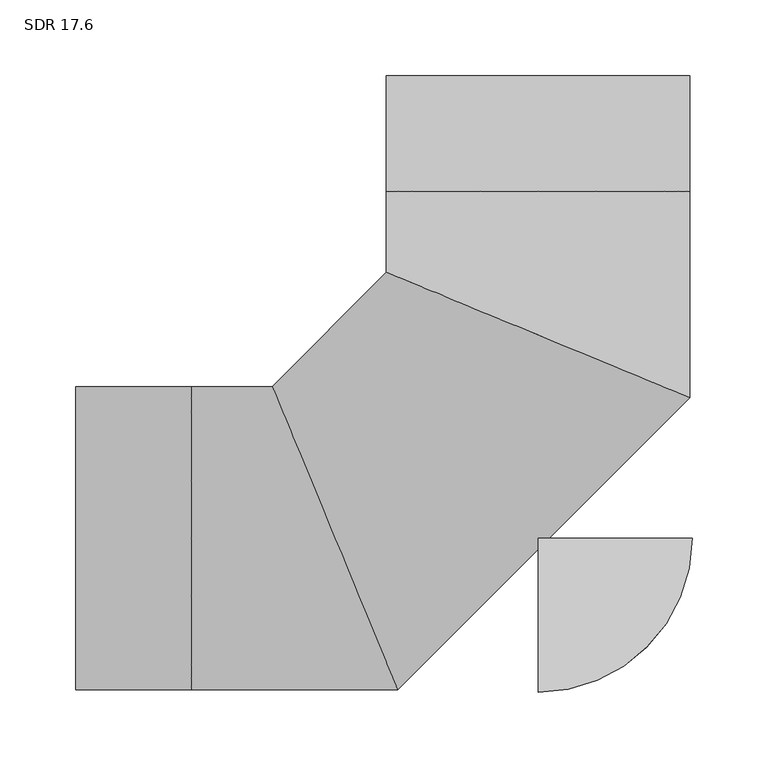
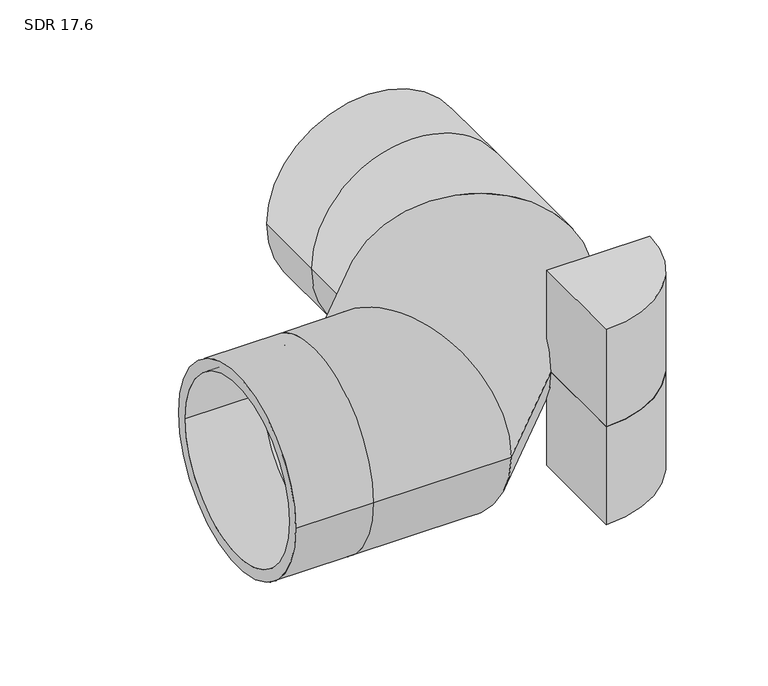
"""IFC4 building model written with IfcOpenShell, lengths in millimetres: pipe fitting geometry, Aquatherm - Elbow Blue BW Segmented : SDR 17.6."""

from ifc_helpers import new_model, si_unit, point, frame, origin, origin_with_axes, origin_2d, place, context, project, spatial, polyline, circle_curve, ellipse_curve, trimmed, segment, composite_curve, outline, extrude, source, transform, mapped, element, save
from ifc_brep_helpers import plane_surface, cylinder_surface, revolved_surface, advanced_brep


def sdr_17_6_2db0e2b8(model_context):
    return source(origin(), model_context, "Body", "SolidModel", [
        extrude(outline(composite_curve([segment(polyline([(0.0, -101.6), (0.0, 0.0), (101.6, 0.0)]), True, "CONTINUOUS"), segment(trimmed(circle_curve(origin_2d(), 101.6), [point((101.6, 0.0))], [point((0.0, -101.6))], False, "CARTESIAN"), True, "CONTINUOUS")], self_intersect=False)), frame((0.0, 0.0, -101.6), z_axis=(0.0, 0.0, 1.0), x_axis=(1.0, 0.0, 0.0)), (0.0, 0.0, 1.0), 101.6),
        extrude(outline(composite_curve([segment(trimmed(circle_curve(origin_2d(), 101.6), [point((101.6, 0.0))], [point((0.0, -101.6))], False, "CARTESIAN"), True, "CONTINUOUS"), segment(polyline([(0.0, -101.6), (0.0, 0.0), (101.6, 0.0)]), True, "CONTINUOUS")], self_intersect=False)), origin_with_axes(), (0.0, 0.0, 1.0), 101.6),
        advanced_brep(
        [(-304.8, -99.949, 0.0), (-304.8, 99.949, 0.0), (-304.8, -88.5921673, 0.0), (-304.8, 88.5921673, 0.0), (99.949, 304.8, 0.0), (-99.949, 304.8, 0.0), (88.5921673, 304.8, 0.0), (-88.5921673, 304.8, 0.0), (-228.6, -99.949, 0.0), (-228.6, 99.949, 0.0), (-228.6, -88.5921673, 0.0), (-228.6, 88.5921673, 0.0), (-92.5105483, -99.949, 0.0), (-175.311011, 99.949, 0.0), (-97.2147024, -88.5921673, 0.0), (-170.6068569, 88.5921673, 0.0), (99.949, 92.5105483, 0.0), (-99.949, 175.311011, 0.0), (88.5921673, 97.2147024, 0.0), (-88.5921673, 170.6068569, 0.0), (-99.949, 228.6, 0.0), (99.949, 228.6, 0.0), (-88.5921673, 228.6, 0.0), (88.5921673, 228.6, 0.0)],
        [
            (0, 1, circle_curve(frame((-304.8, 0.0, 0.0), z_axis=(-1.0, 0.0, 0.0), x_axis=(0.0, 1.0, 0.0)), 99.949)),
            (1, 0, circle_curve(frame((-304.8, 0.0, 0.0), z_axis=(-1.0, 0.0, 0.0), x_axis=(0.0, 1.0, 0.0)), 99.949)),
            (2, 3, circle_curve(frame((-304.8, 0.0, 0.0), z_axis=(1.0, 0.0, 0.0), x_axis=(0.0, 1.0, 0.0)), 88.5921673)),
            (3, 2, circle_curve(frame((-304.8, 0.0, 0.0), z_axis=(1.0, 0.0, 0.0), x_axis=(0.0, 1.0, 0.0)), 88.5921673)),
            (4, 5, circle_curve(frame((0.0, 304.8, 0.0), z_axis=(0.0, 1.0, 0.0), x_axis=(-1.0, 0.0, 0.0)), 99.949)),
            (5, 4, circle_curve(frame((0.0, 304.8, 0.0), z_axis=(0.0, 1.0, 0.0), x_axis=(-1.0, 0.0, 0.0)), 99.949)),
            (6, 7, circle_curve(frame((0.0, 304.8, 0.0), z_axis=(0.0, -1.0, 0.0), x_axis=(-1.0, 0.0, 0.0)), 88.5921673)),
            (7, 6, circle_curve(frame((0.0, 304.8, 0.0), z_axis=(0.0, -1.0, 0.0), x_axis=(-1.0, 0.0, 0.0)), 88.5921673)),
            (0, 8),
            (8, 9, circle_curve(frame((-228.6, 0.0, 0.0), z_axis=(-1.0, 0.0, 0.0), x_axis=(0.0, 1.0, 0.0)), 99.949)),
            (9, 1),
            (9, 8, circle_curve(frame((-228.6, 0.0, 0.0), z_axis=(-1.0, 0.0, 0.0), x_axis=(0.0, 1.0, 0.0)), 99.949)),
            (2, 10),
            (10, 11, circle_curve(frame((-228.6, 0.0, 0.0), z_axis=(1.0, 0.0, 0.0), x_axis=(0.0, 1.0, 0.0)), 88.5921673)),
            (11, 3),
            (11, 10, circle_curve(frame((-228.6, 0.0, 0.0), z_axis=(1.0, 0.0, 0.0), x_axis=(0.0, 1.0, 0.0)), 88.5921673)),
            (8, 12),
            (12, 13, ellipse_curve(frame((-133.9107796, 0.0, 0.0), z_axis=(-0.9238795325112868, -0.3826834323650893, 0.0), x_axis=(-0.3826834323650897, 0.9238795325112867, 0.0)), 108.184018, 99.949)),
            (13, 9),
            (13, 12, ellipse_curve(frame((-133.9107796, 0.0, 0.0), z_axis=(-0.9238795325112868, -0.3826834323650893, 0.0), x_axis=(-0.3826834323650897, 0.9238795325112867, 0.0)), 108.184018, 99.949)),
            (10, 14),
            (14, 15, ellipse_curve(frame((-133.9107796, 0.0, 0.0), z_axis=(0.9238795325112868, 0.3826834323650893, 0.0), x_axis=(0.3826834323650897, -0.9238795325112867, 0.0)), 95.8914709, 88.5921673)),
            (15, 11),
            (15, 14, ellipse_curve(frame((-133.9107796, 0.0, 0.0), z_axis=(0.9238795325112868, 0.3826834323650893, 0.0), x_axis=(0.3826834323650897, -0.9238795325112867, 0.0)), 95.8914709, 88.5921673)),
            (12, 16),
            (16, 17, ellipse_curve(frame((0.0, 133.9107796, 0.0), z_axis=(-0.3826834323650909, -0.9238795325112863, 0.0), x_axis=(-0.9238795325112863, 0.382683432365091, 0.0)), 108.184018, 99.949)),
            (17, 13),
            (17, 16, ellipse_curve(frame((0.0, 133.9107796, 0.0), z_axis=(-0.3826834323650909, -0.9238795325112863, 0.0), x_axis=(-0.9238795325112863, 0.382683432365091, 0.0)), 108.184018, 99.949)),
            (14, 18),
            (18, 19, ellipse_curve(frame((0.0, 133.9107796, 0.0), z_axis=(0.3826834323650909, 0.9238795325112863, 0.0), x_axis=(0.9238795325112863, -0.382683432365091, 0.0)), 95.8914709, 88.5921673)),
            (19, 15),
            (19, 18, ellipse_curve(frame((0.0, 133.9107796, 0.0), z_axis=(0.3826834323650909, 0.9238795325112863, 0.0), x_axis=(0.9238795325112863, -0.382683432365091, 0.0)), 95.8914709, 88.5921673)),
            (20, 21, circle_curve(frame((0.0, 228.6, 0.0), z_axis=(0.0, 1.0, 0.0), x_axis=(-1.0, 0.0, 0.0)), 99.949)),
            (21, 4),
            (5, 20),
            (21, 20, circle_curve(frame((0.0, 228.6, 0.0), z_axis=(0.0, 1.0, 0.0), x_axis=(-1.0, 0.0, 0.0)), 99.949)),
            (22, 23, circle_curve(frame((0.0, 228.6, 0.0), z_axis=(0.0, -1.0, 0.0), x_axis=(-1.0, 0.0, 0.0)), 88.5921673)),
            (23, 6),
            (7, 22),
            (23, 22, circle_curve(frame((0.0, 228.6, 0.0), z_axis=(0.0, -1.0, 0.0), x_axis=(-1.0, 0.0, 0.0)), 88.5921673)),
            (16, 21),
            (20, 17),
            (18, 23),
            (22, 19),
        ],
        [
            plane_surface(frame((-304.8, 0.0, 0.0), z_axis=(-1.0, 0.0, 0.0), x_axis=(0.0, 0.0, 1.0))),
            plane_surface(frame((0.0, 304.8, 0.0), z_axis=(0.0, 1.0, 0.0), x_axis=(0.0, 0.0, 1.0))),
            cylinder_surface(frame((-304.8, 0.0, 0.0), z_axis=(-1.0, 0.0, 0.0), x_axis=(0.0, 1.0, 0.0)), 99.949),
            revolved_surface(polyline([(-228.6, 88.5921673, 0.0), (-304.8, 88.5921673, 0.0)]), (-304.8, 0.0, 0.0), (1.0, 0.0, 0.0)),
            cylinder_surface(frame((-228.6, 0.0, 0.0), z_axis=(-1.0, 0.0, 0.0), x_axis=(0.0, 1.0, 0.0)), 99.949),
            revolved_surface(polyline([(-97.2147023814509, 88.5921673, 0.0), (-228.6, 88.5921673, 0.0)]), (-228.6, 0.0, 0.0), (1.0, 0.0, 0.0)),
            cylinder_surface(frame((-133.9107796, 0.0, 0.0), z_axis=(-0.7071067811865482, -0.7071067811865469, 0.0), x_axis=(-0.7071067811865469, 0.7071067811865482, 0.0)), 99.949),
            revolved_surface(polyline([(-36.69607720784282, 222.50294690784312, 0.0), (-222.50294690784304, 36.69607720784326, 0.0)]), (-133.9107796, 0.0, 0.0), (0.7071067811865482, 0.7071067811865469, 0.0)),
            cylinder_surface(frame((0.0, 228.6, 0.0), z_axis=(0.0, -1.0, 0.0), x_axis=(-1.0, 0.0, 0.0)), 99.949),
            revolved_surface(polyline([(-88.5921673, 304.8, 0.0), (-88.5921673, 228.6, 0.0)]), (0.0, 228.6, 0.0), (0.0, 1.0, 0.0)),
            cylinder_surface(frame((0.0, 133.9107796, 0.0), z_axis=(0.0, -1.0, 0.0), x_axis=(-1.0, 0.0, 0.0)), 99.949),
            revolved_surface(polyline([(-88.5921673, 228.6, 0.0), (-88.5921673, 97.21470238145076, 0.0)]), (0.0, 133.9107796, 0.0), (0.0, 1.0, 0.0)),
        ],
        [
            (0, [[1, 2], [3, 4]]),
            (1, [[5, 6], [7, 8]]),
            (2, [[-1, 9, 10, 11]]),
            (2, [[-2, -11, 12, -9]]),
            (3, [[-3, 13, 14, 15]]),
            (3, [[-4, -15, 16, -13]]),
            (4, [[-10, 17, 18, 19]]),
            (4, [[-12, -19, 20, -17]]),
            (5, [[-14, 21, 22, 23]]),
            (5, [[-16, -23, 24, -21]]),
            (6, [[-18, 25, 26, 27]]),
            (6, [[-20, -27, 28, -25]]),
            (7, [[-22, 29, 30, 31]]),
            (7, [[-24, -31, 32, -29]]),
            (8, [[33, 34, -6, 35]]),
            (8, [[36, -35, -5, -34]]),
            (9, [[37, 38, -8, 39]]),
            (9, [[40, -39, -7, -38]]),
            (10, [[-26, 41, -33, 42]]),
            (10, [[-28, -42, -36, -41]]),
            (11, [[-30, 43, -37, 44]]),
            (11, [[-32, -44, -40, -43]]),
        ],
    ),
    ])


if __name__ == "__main__":
    model = new_model("IFC4")
    model_context = context("Model", 3, world=origin())
    ifc_project = project(units=[si_unit("LENGTHUNIT", "METRE", prefix="MILLI")], contexts=[model_context])
    site = spatial("IfcSite", under=ifc_project)
    building = spatial("IfcBuilding", under=site)
    placement = place(None, origin())
    sdr_17_6_shape = sdr_17_6_2db0e2b8(model_context)
    element("IfcPipeFitting", 1, ObjectType="Aquatherm - Elbow Blue BW Segmented : SDR 17.6", at=placement, inside=building, context=model_context, shape_type="MappedRepresentation", body=[
        mapped(sdr_17_6_shape, transform((0.0, 0.0, 0.0), x_axis=(1.0, 0.0, 0.0), y_axis=(0.0, 1.0, 0.0), z_axis=(0.0, 0.0, 1.0))),
    ])
    save(model, "model.ifc")
